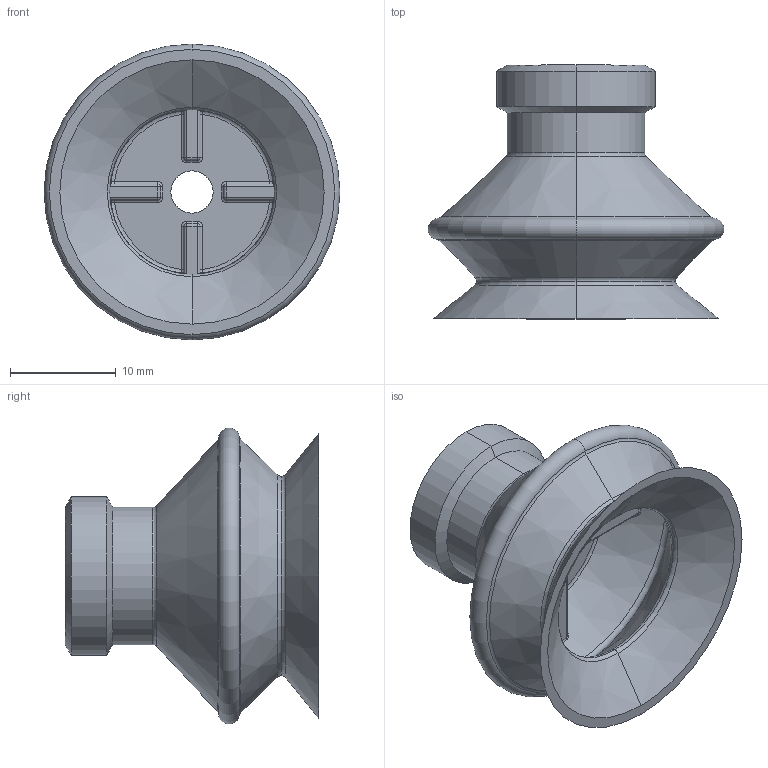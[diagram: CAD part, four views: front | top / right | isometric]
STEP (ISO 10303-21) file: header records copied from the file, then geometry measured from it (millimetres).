
FILE_DESCRIPTION (( 'STEP AP214' ), '1' );
FILE_NAME ('ZP25BN.step.step', '2022-10-26T10:09:02', ( '' ), ( '' ), 'SwSTEP 2.0', 'SolidWorks 2022', '' );
FILE_SCHEMA (( 'AUTOMOTIVE_DESIGN' ));
Length unit declared in the file: millimetre
Products named in the file (3): ZP25BN.step_ZP7007 Pad_25-B; ZP25BN.step_ZP7007 Lock Ring_20-32; ZP25BN.step
Assembly tree (2 placements, depth 2):
  ZP25BN.step
    ZP25BN.step_ZP7007 Pad_25-B
    ZP25BN.step_ZP7007 Lock Ring_20-32
Bounding box: 28 x 24 x 28 mm (x, y, z)
Volume: 3123.8 mm3; surface area: 4200.3 mm2
Topology: 2 solids, 2 shells, 147 faces, 326 edges, 177 vertices
Faces by surface type: cylinder 42, torus 35, bspline 24, plane 22, cone 16, sphere 8
Entity records: 6135 total; most frequent: CARTESIAN_POINT 1287, DIRECTION 706, ORIENTED_EDGE 636, EDGE_CURVE 318, AXIS2_PLACEMENT_3D 308, CIRCLE 180, VERTEX_POINT 177, UNCERTAINTY_MEASURE_WITH_UNIT 154
